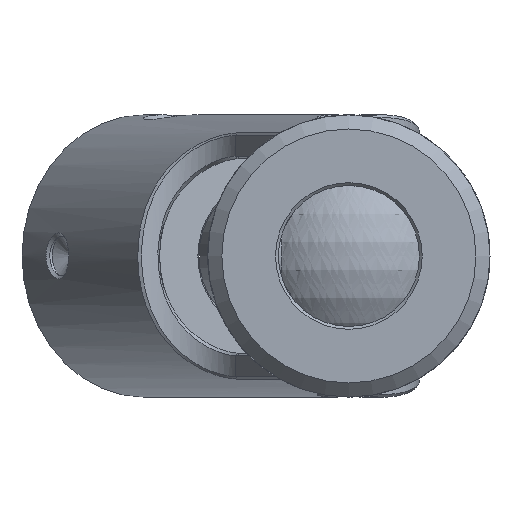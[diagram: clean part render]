
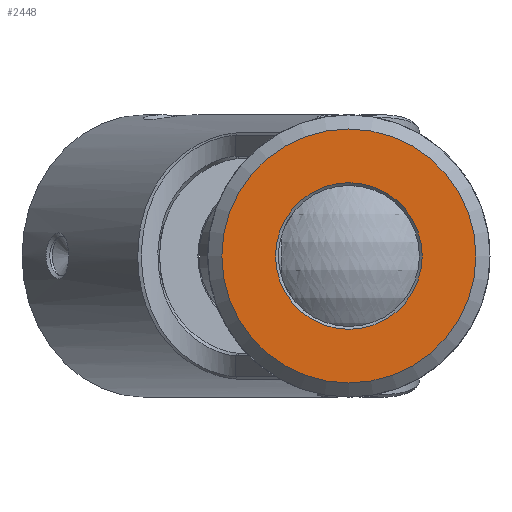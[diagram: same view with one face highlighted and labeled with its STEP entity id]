
A CAD part, left-side view. The second image highlights one B-rep face of the part: STEP entity #2448.
In plain terms, the highlighted planar face has unit normal (-1, 0, 0).
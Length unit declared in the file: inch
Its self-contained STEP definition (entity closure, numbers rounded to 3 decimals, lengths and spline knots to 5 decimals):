
#506=PLANE('',#2663);
#592=CIRCLE('',#2659,0.1299);
#595=CIRCLE('',#2664,0.225);
#776=VERTEX_POINT('',#7302);
#779=VERTEX_POINT('',#7310);
#1138=EDGE_CURVE('',#776,#776,#592,.T.);
#1141=EDGE_CURVE('',#779,#779,#595,.T.);
#1714=ORIENTED_EDGE('',*,*,#1141,.F.);
#1715=ORIENTED_EDGE('',*,*,#1138,.F.);
#2039=EDGE_LOOP('',(#1714));
#2040=EDGE_LOOP('',(#1715));
#2272=FACE_BOUND('',#2039,.T.);
#2273=FACE_BOUND('',#2040,.T.);
#2448=ADVANCED_FACE('',(#2272,#2273),#506,.F.);
#2659=AXIS2_PLACEMENT_3D('',#7301,#9354,#9355);
#2663=AXIS2_PLACEMENT_3D('',#7308,#9362,$);
#2664=AXIS2_PLACEMENT_3D('',#7309,#9363,#9364);
#7301=CARTESIAN_POINT('',(-0.75,0.,0.));
#7302=CARTESIAN_POINT('',(-0.75,0.,-0.1299));
#7308=CARTESIAN_POINT('',(-0.75,0.,0.));
#7309=CARTESIAN_POINT('',(-0.75,0.,0.));
#7310=CARTESIAN_POINT('',(-0.75,0.,-0.225));
#9354=DIRECTION('',(-1.,0.,0.));
#9355=DIRECTION('',(0.,0.,0.13));
#9362=DIRECTION('',(1.,0.,0.));
#9363=DIRECTION('',(1.,0.,0.));
#9364=DIRECTION('',(0.,0.,0.225));
